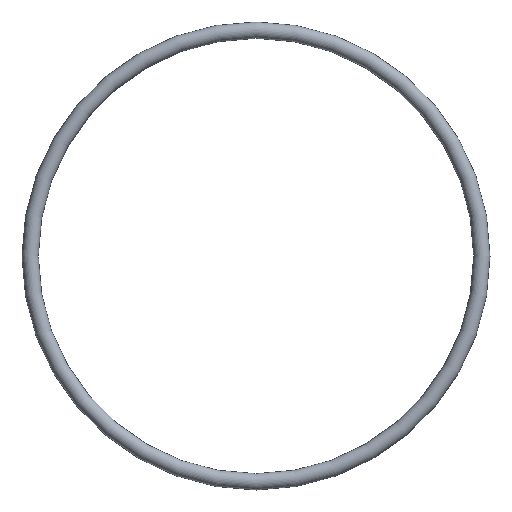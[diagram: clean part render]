
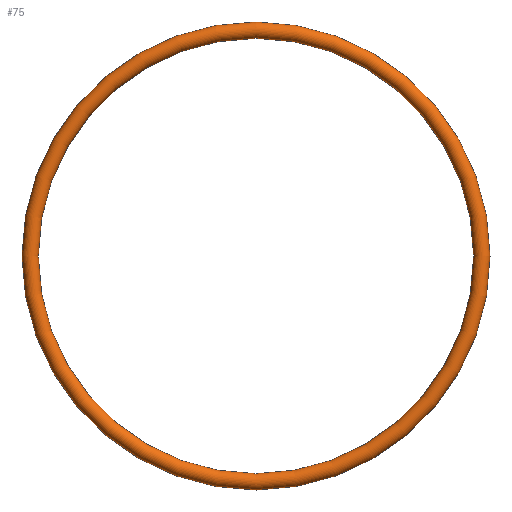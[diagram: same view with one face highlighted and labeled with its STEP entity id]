
A CAD part, front view. The second image highlights one B-rep face of the part: STEP entity #75.
In plain terms, the highlighted toroidal (fillet/blend) face has major radius 41.5 mm and minor radius 1.5 mm.
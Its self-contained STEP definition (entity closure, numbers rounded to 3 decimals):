
#75 = ADVANCED_FACE( '', ( #77 ), #78, .T. );
#77 = FACE_BOUND( '', #79, .T. );
#78 = TOROIDAL_SURFACE( '', #80, 41.5, 1.5 );
#79 = VERTEX_LOOP( '', #81 );
#80 = AXIS2_PLACEMENT_3D( '', #82, #83, #84 );
#81 = VERTEX_POINT( '', #85 );
#82 = CARTESIAN_POINT( '', ( 0., 0., 0. ) );
#83 = DIRECTION( '', ( 0., -1., 0. ) );
#84 = DIRECTION( '', ( 0., 0., -1. ) );
#85 = CARTESIAN_POINT( '', ( 0., 0., -43. ) );
